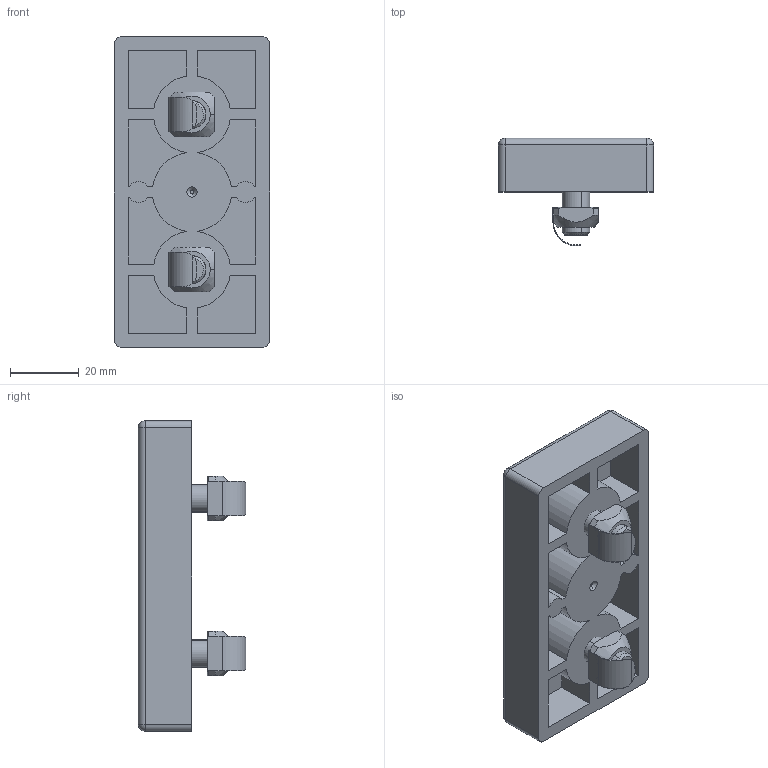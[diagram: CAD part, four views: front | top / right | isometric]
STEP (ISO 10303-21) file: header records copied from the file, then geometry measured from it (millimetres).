
FILE_DESCRIPTION (( 'STEP AP214' ), '1' );
FILE_NAME ('1.3037 Yhdistämislevy 45X90 C.STEP', '2025-09-08T09:03:07', ( '' ), ( '' ), 'SwSTEP 2.0', 'SolidWorks 2025', '' );
FILE_SCHEMA (( 'AUTOMOTIVE_DESIGN' ));
Length unit declared in the file: millimetre
Products named in the file (1): 1.3037 Yhdistämislevy 45X90 C
Bounding box: 45 x 31.15 x 90 mm (x, y, z)
Volume: 45587.4 mm3; surface area: 22386.4 mm2
Topology: 5 solids, 5 shells, 217 faces, 528 edges, 328 vertices
Faces by surface type: plane 127, cylinder 54, cone 24, torus 8, sphere 4
Entity records: 8912 total; most frequent: CARTESIAN_POINT 1348, DIRECTION 1076, ORIENTED_EDGE 1040, EDGE_CURVE 520, AXIS2_PLACEMENT_3D 376, VERTEX_POINT 328, LINE 324, VECTOR 324
